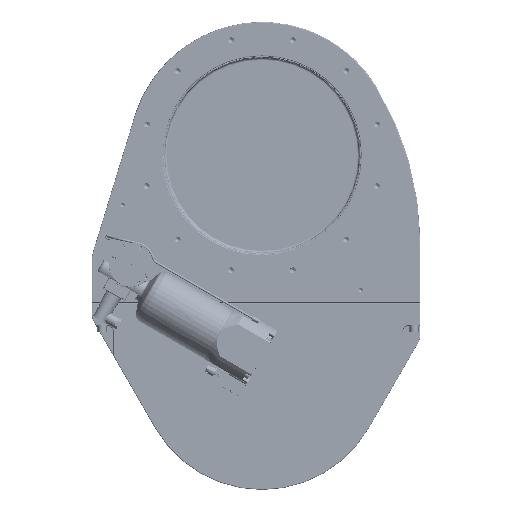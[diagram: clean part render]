
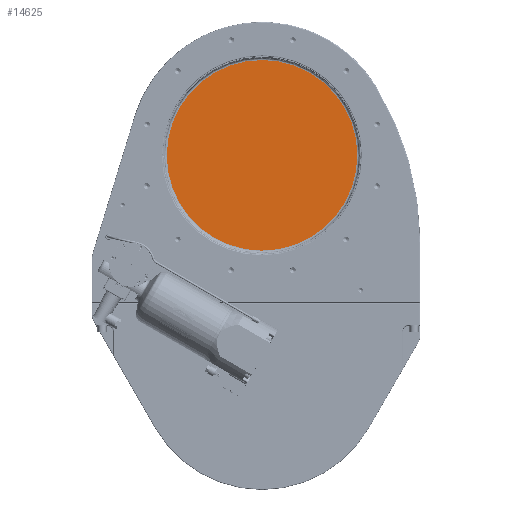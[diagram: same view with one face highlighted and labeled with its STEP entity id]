
A CAD part, top view. The second image highlights one B-rep face of the part: STEP entity #14625.
In plain terms, the highlighted planar face has unit normal (0, 0, 1) as drawn and (0, 0, -1) by its records, which use the part's own axes.
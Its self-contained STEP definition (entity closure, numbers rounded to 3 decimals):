
#11993=FACE_OUTER_BOUND('',#32291,.T.);
#14625=ADVANCED_FACE('',(#11993),#18538,.F.);
#18538=PLANE('',#72313);
#32291=EDGE_LOOP('',(#37872));
#37872=ORIENTED_EDGE('',*,*,#61013,.F.);
#54883=VERTEX_POINT('',#96239);
#61013=EDGE_CURVE('',#54883,#54883,#69482,.T.);
#69482=CIRCLE('',#72311,168.005);
#72311=AXIS2_PLACEMENT_3D('',#96238,#79026,#79027);
#72313=AXIS2_PLACEMENT_3D('',#96241,#79030,#79031);
#79026=DIRECTION('',(0.,0.,1.));
#79027=DIRECTION('',(1.,0.,0.));
#79030=DIRECTION('',(0.,0.,1.));
#79031=DIRECTION('',(1.,0.,0.));
#96238=CARTESIAN_POINT('',(0.,-301.17,5.75));
#96239=CARTESIAN_POINT('',(168.005,-301.17,5.75));
#96241=CARTESIAN_POINT('',(0.,-301.17,5.75));
